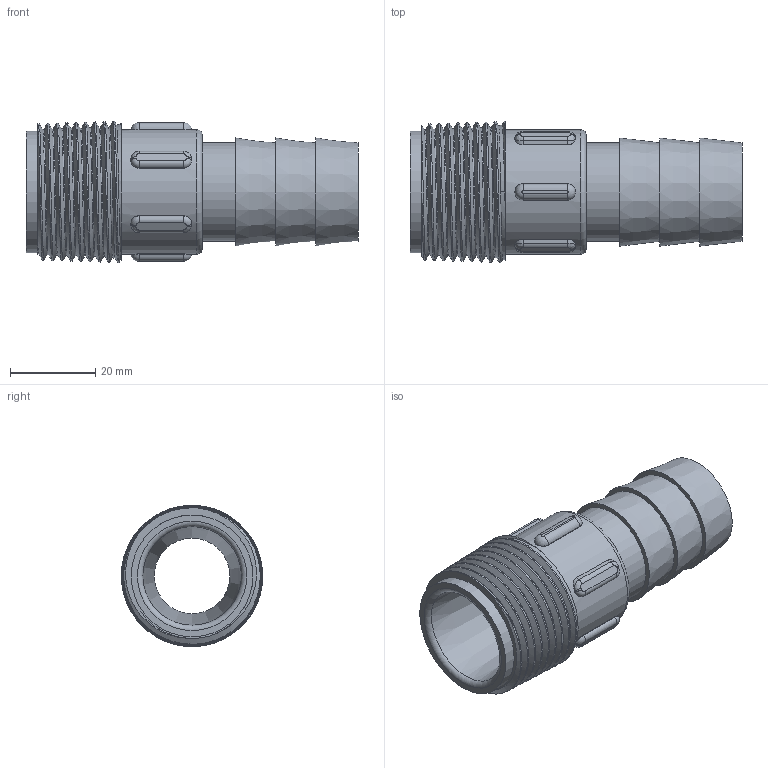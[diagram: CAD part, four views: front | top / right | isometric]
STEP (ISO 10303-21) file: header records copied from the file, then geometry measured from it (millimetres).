
FILE_DESCRIPTION(/* description */ ('Alibre Inc.'),/* implementation_level */ '2;1');
FILE_NAME(/* name */ 'export0',/* time_stamp */ '2016-12-06T14:18:43-05:00',/* author */ (''),/* organization */ (''),/* preprocessor_version */ 'ST-DEVELOPER v14',/* originating_system */ 'Alibre',/* authorisation */ '');
FILE_SCHEMA (('CONFIG_CONTROL_DESIGN'));
Length unit declared in the file: centimetre
Products named in the file (1): ID_2
Bounding box: 77.98 x 33.18 x 33.17 mm (x, y, z)
Volume: 24471.1 mm3; surface area: 13864 mm2
Topology: 1 solids, 1 shells, 138 faces, 317 edges, 193 vertices
Faces by surface type: cylinder 48, plane 35, cone 30, torus 14, bspline 11
Full cylindrical faces by diameter (mm): 17.78 x1, 23.114 x1, 28.592 x1, 29.21 x1
Entity records: 25837 total; most frequent: CARTESIAN_POINT 22849, ORIENTED_EDGE 608, DIRECTION 541, EDGE_CURVE 304, AXIS2_PLACEMENT_3D 241, VERTEX_POINT 191, EDGE_LOOP 163, FACE_BOUND 163
